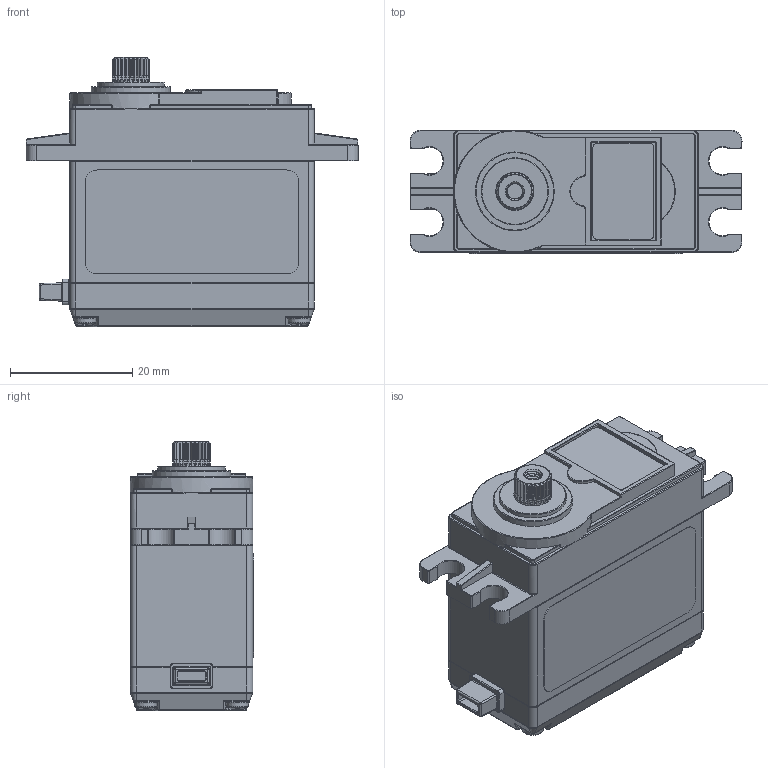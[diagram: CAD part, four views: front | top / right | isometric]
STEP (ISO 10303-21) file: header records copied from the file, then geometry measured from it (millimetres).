
FILE_DESCRIPTION(/* description */ (''),/* implementation_level */ '2;1');
FILE_NAME(/* name */ '2000-0025-0502.step',/* time_stamp */ '2025-05-22T16:22:11-05:00',/* author */ (''),/* organization */ (''),/* preprocessor_version */ 'ST-DEVELOPER v20.1',/* originating_system */ 'Autodesk Translation Framework v14.10.0.0',/* authorisation */ '');
FILE_SCHEMA (('AUTOMOTIVE_DESIGN { 1 0 10303 214 3 1 1 }'));
Length unit declared in the file: millimetre
Products named in the file (11): 2000-0025-0502; 2000 Series Servo; Topcase; Midcase; Botcase; Wire Seal; Screw; H25T Spline; Labels; 2000-0025-0502 Side Label; 2000-0025-0502 Top Label
Assembly tree (13 placements, depth 3):
  2000-0025-0502
    2000 Series Servo
      Topcase
      Midcase
      Botcase
      Wire Seal
      Screw  x4
    H25T Spline
    Labels
      2000-0025-0502 Side Label
      2000-0025-0502 Top Label
Bounding box: 54.3 x 20.15 x 44.1 mm (x, y, z)
Volume: 31109.3 mm3; surface area: 13070.8 mm2
Topology: 11 solids, 11 shells, 1025 faces, 2724 edges, 1728 vertices
Faces by surface type: cylinder 491, plane 246, torus 118, cone 110, bspline 36, sphere 24
Full cylindrical faces by diameter (mm): 1.5 x4, 1.509 x104, 2 x104, 2.529 x11, 3.086 x12, 6.1 x1, 6.25 x1, 11 x1, 12.9 x1
Entity records: 37063 total; most frequent: CARTESIAN_POINT 18573, ORIENTED_EDGE 3916, DIRECTION 3800, EDGE_CURVE 1958, AXIS2_PLACEMENT_3D 1492, VERTEX_POINT 1224, LINE 816, VECTOR 816
